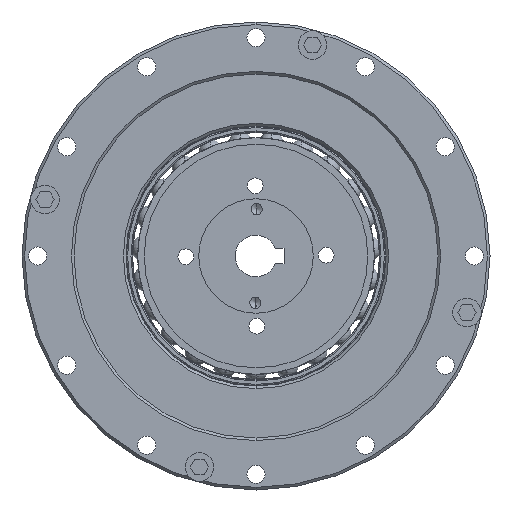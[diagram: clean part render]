
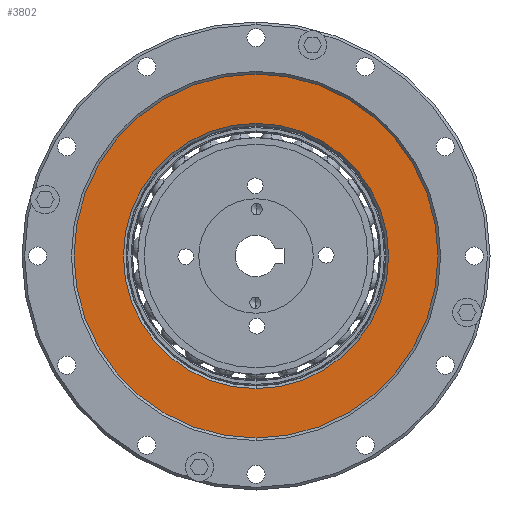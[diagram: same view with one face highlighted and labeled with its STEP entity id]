
A CAD part, left-side view. The second image highlights one B-rep face of the part: STEP entity #3802.
In plain terms, the highlighted planar face has unit normal (-1, 0, 0).
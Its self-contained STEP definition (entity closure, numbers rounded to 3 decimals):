
#1490=PLANE('',#13826);
#2993=FACE_BOUND('',#5334,.T.);
#2994=FACE_BOUND('',#5335,.T.);
#3802=ADVANCED_FACE('',(#2993,#2994),#1490,.F.);
#5334=EDGE_LOOP('',(#7014,#7015));
#5335=EDGE_LOOP('',(#7016,#7017));
#7014=ORIENTED_EDGE('',*,*,#11050,.T.);
#7015=ORIENTED_EDGE('',*,*,#11052,.T.);
#7016=ORIENTED_EDGE('',*,*,#11053,.T.);
#7017=ORIENTED_EDGE('',*,*,#11054,.T.);
#9734=VERTEX_POINT('',#20551);
#9735=VERTEX_POINT('',#20553);
#9736=VERTEX_POINT('',#20559);
#9737=VERTEX_POINT('',#20560);
#11050=EDGE_CURVE('',#9735,#9734,#12580,.T.);
#11052=EDGE_CURVE('',#9734,#9735,#12581,.T.);
#11053=EDGE_CURVE('',#9736,#9737,#12582,.T.);
#11054=EDGE_CURVE('',#9737,#9736,#12583,.T.);
#12580=CIRCLE('',#13820,35.);
#12581=CIRCLE('',#13822,35.);
#12582=CIRCLE('',#13824,25.5);
#12583=CIRCLE('',#13825,25.5);
#13820=AXIS2_PLACEMENT_3D('',#20552,#16430,#16431);
#13822=AXIS2_PLACEMENT_3D('',#20556,#16435,#16436);
#13824=AXIS2_PLACEMENT_3D('',#20558,#16439,#16440);
#13825=AXIS2_PLACEMENT_3D('',#20561,#16441,#16442);
#13826=AXIS2_PLACEMENT_3D('',#20562,#16443,#16444);
#16430=DIRECTION('',(-1.,0.,0.));
#16431=DIRECTION('',(0.,0.,-1.));
#16435=DIRECTION('',(-1.,0.,0.));
#16436=DIRECTION('',(0.,0.,1.));
#16439=DIRECTION('',(1.,0.,0.));
#16440=DIRECTION('',(0.,0.,1.));
#16441=DIRECTION('',(1.,0.,0.));
#16442=DIRECTION('',(0.,0.,-1.));
#16443=DIRECTION('',(1.,0.,0.));
#16444=DIRECTION('',(0.,0.,1.));
#20551=CARTESIAN_POINT('',(2.6,0.,35.));
#20552=CARTESIAN_POINT('',(2.6,0.,0.));
#20553=CARTESIAN_POINT('',(2.6,0.,-35.));
#20556=CARTESIAN_POINT('',(2.6,0.,0.));
#20558=CARTESIAN_POINT('',(2.6,0.,0.));
#20559=CARTESIAN_POINT('',(2.6,0.,25.5));
#20560=CARTESIAN_POINT('',(2.6,0.,-25.5));
#20561=CARTESIAN_POINT('',(2.6,0.,0.));
#20562=CARTESIAN_POINT('',(2.6,35.,0.));
